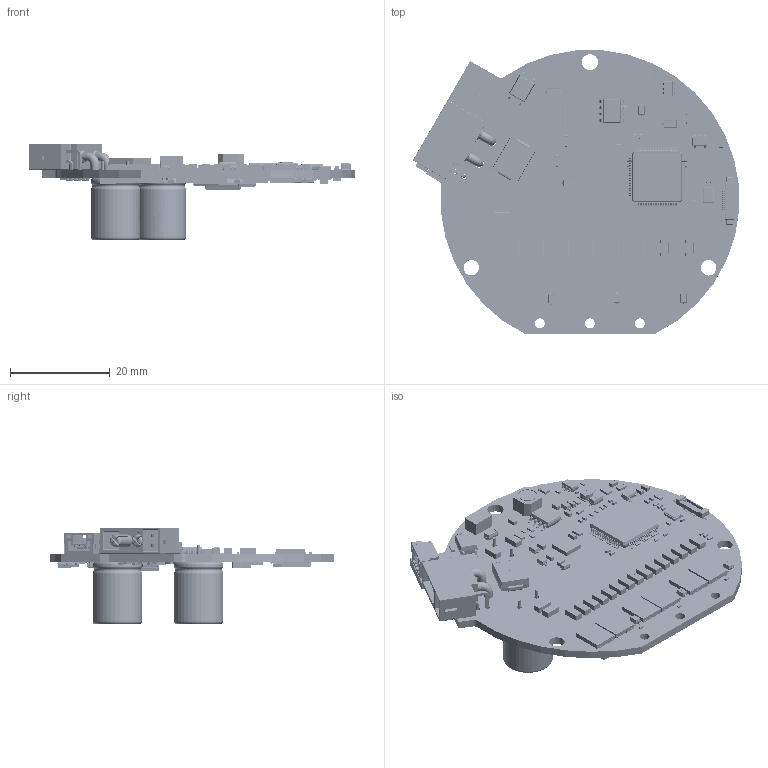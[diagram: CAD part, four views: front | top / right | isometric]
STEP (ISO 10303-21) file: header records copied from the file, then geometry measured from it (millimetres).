
FILE_DESCRIPTION(('Open CASCADE Model'),'2;1');
FILE_NAME('Open CASCADE Shape Model','2025-06-25T10:36:08',('Author'),( 'Open CASCADE'),'Open CASCADE STEP processor 6.8','Open CASCADE 6.8' ,'Unknown');
FILE_SCHEMA(('AUTOMOTIVE_DESIGN { 1 0 10303 214 1 1 1 1 }'));
Length unit declared in the file: millimetre
Products named in the file (316): PCB; Board; Open CASCADE STEP translator 6.8 2.1.1; R110; R_0402; LOGO?; U9; SOP-42; User_Library-HCPL-181-1_K_X_F6rper_1; User_Library-HCPL-181-1_Pins_1; R71; R_0603; R38; P3; SM03B-GHS-TB; P2; User_Library-XT30PW(2_+_2)_v6.1; R72; R_1206; C80; C_1206; U11; SOP8; LOGO?0.25; SOP8_呿极; 綠僅1.8_腔竘褐; C79; C_0402; C78; P1; I-PEX_20374-010-31_RGB8421504; U3; SOT23-5; SOT23-5and6_竘褐; LOGO?0.15; R2; C6; C_0805; C5; C_0603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
Assembly tree (608 placements, depth 4):
  PCB
    Board
      Open CASCADE STEP translator 6.8 2.1.1
    R110
      R_0402
        R_0402
        LOGO?
    U9
      SOP-42
        User_Library-HCPL-181-1_K_X_F6rper_1
        User_Library-HCPL-181-1_Pins_1  x4
    R71
      R_0603
        R_0603
        LOGO?
    R38
      R_0402
        R_0402
        LOGO?
    P3
      SM03B-GHS-TB
    P2
      User_Library-XT30PW(2_+_2)_v6.1
    R72
      R_1206
        R_1206
        LOGO?
    C80
      C_1206
        LOGO?
        C_1206
    U11
      SOP8
        LOGO?0.25
        SOP8_呿极
        綠僅1.8_腔竘褐  x8
    C79
      C_0402
        LOGO?
        C_0402
    C78
      C_0402
        LOGO?
        C_0402
    P1
      I-PEX_20374-010-31_RGB8421504
    U3
      SOT23-5
        SOT23-5
        SOT23-5and6_竘褐  x5
        LOGO?0.15
    R2
      R_0603
        R_0603
        LOGO?
    C6
      C_0805
        LOGO?
        C_0805
    C5
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Bounding box: 65.44 x 56.9 x 19.39 mm (x, y, z)
Volume: 8198 mm3; surface area: 13313.9 mm2
Topology: 3339 solids, 3339 shells, 46301 faces, 108060 edges, 68482 vertices
Faces by surface type: plane 24310, bspline 12322, cylinder 7917, sphere 1110, torus 628, revolution 8, cone 6
Full cylindrical faces by diameter (mm): 0.9 x2, 1 x4, 1.8 x2, 2 x3, 3.1 x2
Entity records: 325379 total; most frequent: CARTESIAN_POINT 113269, ORIENTED_EDGE 35542, DIRECTION 28990, EDGE_CURVE 17771, VERTEX_POINT 11431, LINE 11214, VECTOR 11214, AXIS2_PLACEMENT_3D 8884
